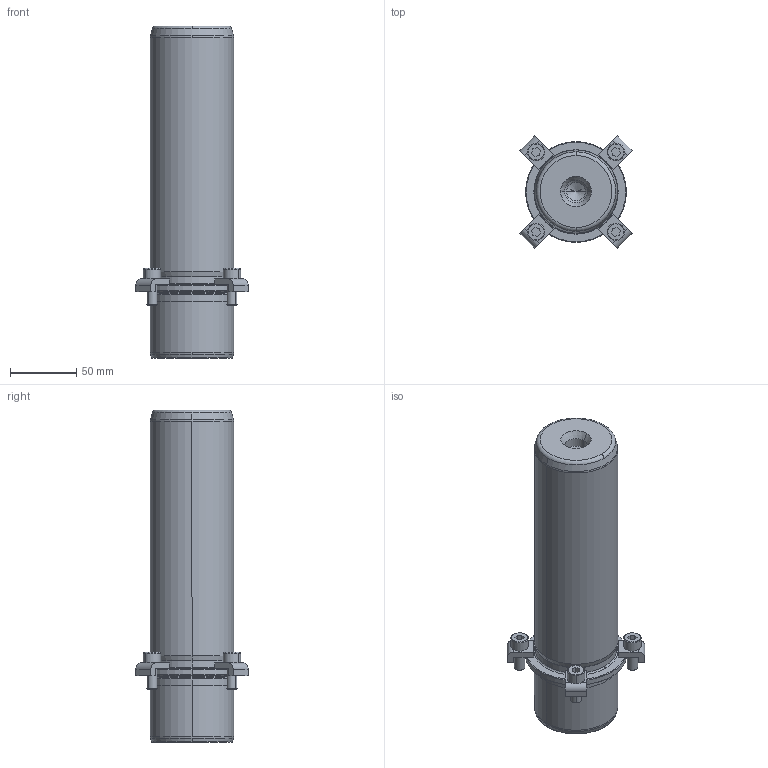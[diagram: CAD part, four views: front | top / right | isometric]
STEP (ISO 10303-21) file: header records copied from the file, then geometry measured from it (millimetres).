
FILE_DESCRIPTION((''),'2;1');
FILE_NAME('P21_063_200.stp','2008-12-23T09:21:38',(''),(''),'Mechanical Desktop 2009','Mechanical Desktop 2009',', , ');
FILE_SCHEMA(('CONFIG_CONTROL_DESIGN'));
Length unit declared in the file: millimetre
Products named in the file (2): Product; blmdl1
Assembly tree (1 placements, depth 2):
  Product
    blmdl1
Bounding box: 84.5 x 84.5 x 250 mm (x, y, z)
Volume: 778692.9 mm3; surface area: 71107.5 mm2
Topology: 9 solids, 9 shells, 195 faces, 477 edges, 309 vertices
Faces by surface type: plane 77, cylinder 52, cone 34, torus 16, bspline 16
Entity records: 6547 total; most frequent: CARTESIAN_POINT 1683, DIRECTION 1078, ORIENTED_EDGE 946, EDGE_CURVE 473, AXIS2_PLACEMENT_3D 424, VERTEX_POINT 309, CIRCLE 243, VECTOR 230
